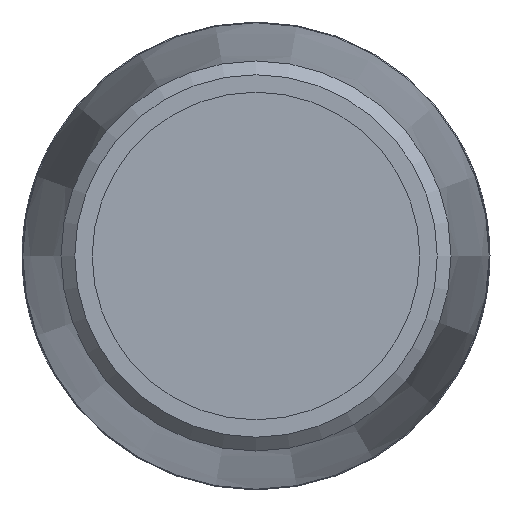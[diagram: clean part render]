
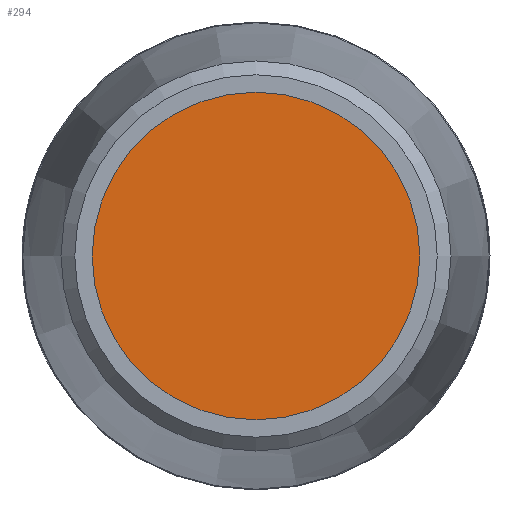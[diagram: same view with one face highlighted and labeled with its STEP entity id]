
A CAD part, left-side view. The second image highlights one B-rep face of the part: STEP entity #294.
In plain terms, the highlighted planar face has unit normal (-1, 0, 0).
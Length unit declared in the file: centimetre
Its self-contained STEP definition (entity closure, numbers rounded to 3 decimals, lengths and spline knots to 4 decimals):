
#48=PLANE('',#329);
#77=FACE_OUTER_BOUND('',#108,.T.);
#108=EDGE_LOOP('',(#214));
#134=CIRCLE('',#328,0.63);
#148=VERTEX_POINT('',#455);
#174=EDGE_CURVE('',#148,#148,#134,.T.);
#214=ORIENTED_EDGE('',*,*,#174,.T.);
#294=ADVANCED_FACE('',(#77),#48,.T.);
#328=AXIS2_PLACEMENT_3D('',#456,#387,#388);
#329=AXIS2_PLACEMENT_3D('',#457,#389,#390);
#387=DIRECTION('center_axis',(-1.,0.,0.));
#388=DIRECTION('ref_axis',(0.,0.,1.));
#389=DIRECTION('center_axis',(-1.,0.,0.));
#390=DIRECTION('ref_axis',(0.,0.,1.));
#455=CARTESIAN_POINT('',(-4.6,-0.63,0.));
#456=CARTESIAN_POINT('Origin',(-4.6,0.,0.));
#457=CARTESIAN_POINT('Origin',(-4.6,0.,0.));
